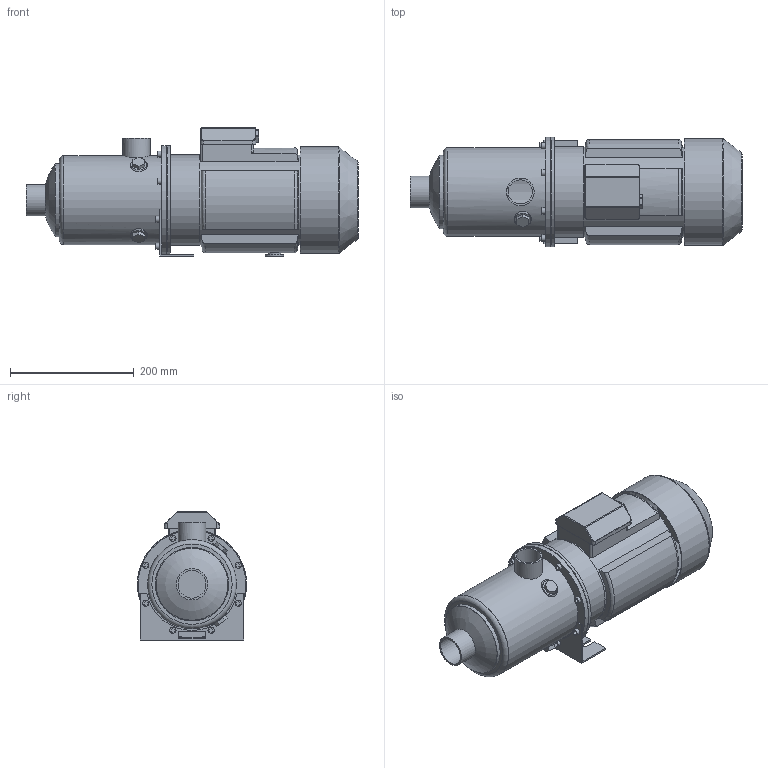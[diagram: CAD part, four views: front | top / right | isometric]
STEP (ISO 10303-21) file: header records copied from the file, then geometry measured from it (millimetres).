
FILE_DESCRIPTION(/* description */ ('Unknown'),/* implementation_level */ '2;1');
FILE_NAME(/* name */ 'MH 9 [5] T',/* time_stamp */ '2026-07-10T15:03:23+02:00',/* author */ ('Unknown'),/* organization */ ('Unknown'),/* preprocessor_version */ 'ST-DEVELOPER v20',/* originating_system */ 'Solid Edge',/* authorisation */ 'Unknown');
FILE_SCHEMA (('AUTOMOTIVE_DESIGN {1 0 10303 214 3 1 1}'));
Length unit declared in the file: millimetre
Products named in the file (10): MH 9 [5] T; Flangia motore Tonda M90; Corpo MH 9 [5]; Mot_Wendy_MEC90_22_T; carcassa MEC 90-Wendy; Basetta MEC 90 T-Wendy_new; Copriventola MEC 90-Wendy; Piedino MEC 90 int.90; Staffa 3-5-9 int.90
Assembly tree (8 placements, depth 3):
  MH 9 [5] T
    Flangia motore Tonda M90
    Corpo MH 9 [5]
    Mot_Wendy_MEC90_22_T
      carcassa MEC 90-Wendy
      Basetta MEC 90 T-Wendy_new
      Copriventola MEC 90-Wendy
    Piedino MEC 90 int.90
    Staffa 3-5-9 int.90
  (unnamed)
Bounding box: 535.6 x 176.5 x 206.5 mm (x, y, z)
Volume: 2599314.9 mm3; surface area: 666307.7 mm2
Topology: 8 solids, 8 shells, 267 faces, 623 edges, 413 vertices
Faces by surface type: plane 158, cylinder 70, torus 19, cone 14, bspline 4, sphere 2
Full cylindrical faces by diameter (mm): 7 x4, 10 x9, 13.5 x1, 17.5 x1, 21 x1, 30 x1, 38.952 x1, 44.5 x1, 44.845 x1, 50.8 x1, 116.1 x1, 118.5 x1, 136 x1, 140 x3, 141.1 x1, 143.5 x1, 146 x2, 170 x1, 172 x1, 173.5 x1, 174.1 x1, 176.5 x2
Entity records: 8595 total; most frequent: CARTESIAN_POINT 1563, DIRECTION 1212, ORIENTED_EDGE 1070, EDGE_CURVE 535, AXIS2_PLACEMENT_3D 444, VERTEX_POINT 382, EDGE_LOOP 375, FACE_BOUND 375
